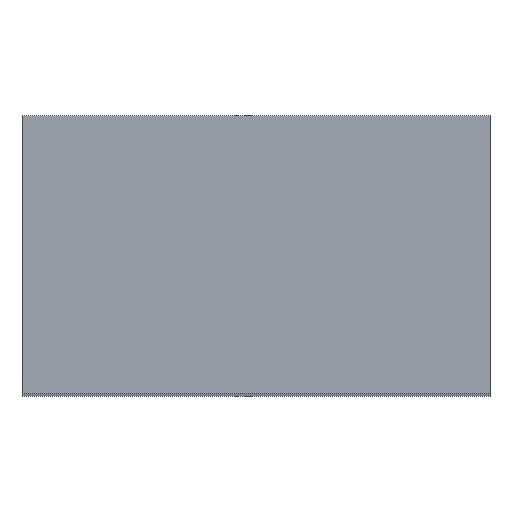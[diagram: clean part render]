
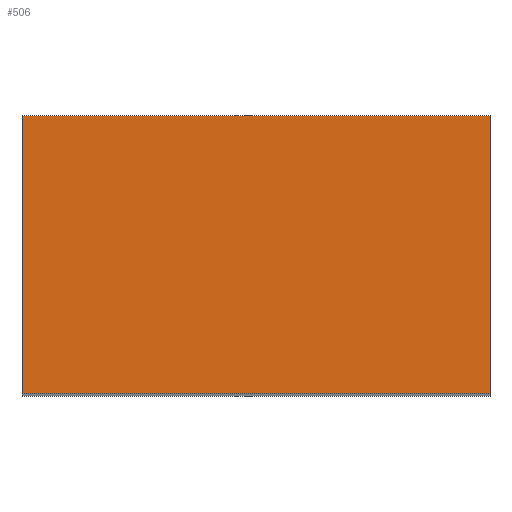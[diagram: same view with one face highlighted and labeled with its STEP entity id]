
A CAD part, top view. The second image highlights one B-rep face of the part: STEP entity #506.
In plain terms, the highlighted planar face has unit normal (0, 0, 1).
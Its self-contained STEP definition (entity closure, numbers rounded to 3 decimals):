
#126 = PLANE('',#127);
#127 = AXIS2_PLACEMENT_3D('',#128,#129,#130);
#128 = CARTESIAN_POINT('',(12.4,2.02,-0.06));
#129 = DIRECTION('',(1.,0.,0.));
#130 = DIRECTION('',(0.,0.,1.));
#181 = PLANE('',#182);
#182 = AXIS2_PLACEMENT_3D('',#183,#184,#185);
#183 = CARTESIAN_POINT('',(12.4,2.02,-0.06));
#184 = DIRECTION('',(0.,1.,0.));
#185 = DIRECTION('',(0.,0.,1.));
#223 = VERTEX_POINT('',#224);
#224 = CARTESIAN_POINT('',(12.4,2.02,0.));
#275 = VERTEX_POINT('',#276);
#276 = CARTESIAN_POINT('',(12.4,3.06,0.));
#290 = PLANE('',#291);
#291 = AXIS2_PLACEMENT_3D('',#292,#293,#294);
#292 = CARTESIAN_POINT('',(12.4,3.06,-0.06));
#293 = DIRECTION('',(0.,1.,0.));
#294 = DIRECTION('',(0.,0.,1.));
#302 = EDGE_CURVE('',#223,#275,#303,.T.);
#303 = SURFACE_CURVE('',#304,(#308,#315),.PCURVE_S1.);
#304 = LINE('',#305,#306);
#305 = CARTESIAN_POINT('',(12.4,2.02,0.));
#306 = VECTOR('',#307,1.);
#307 = DIRECTION('',(0.,1.,0.));
#308 = PCURVE('',#126,#309);
#309 = DEFINITIONAL_REPRESENTATION('',(#310),#314);
#310 = LINE('',#311,#312);
#311 = CARTESIAN_POINT('',(0.06,0.));
#312 = VECTOR('',#313,1.);
#313 = DIRECTION('',(0.,-1.));
#314 = ( GEOMETRIC_REPRESENTATION_CONTEXT(2) 
PARAMETRIC_REPRESENTATION_CONTEXT() REPRESENTATION_CONTEXT('2D SPACE',''
  ) );
#315 = PCURVE('',#316,#321);
#316 = PLANE('',#317);
#317 = AXIS2_PLACEMENT_3D('',#318,#319,#320);
#318 = CARTESIAN_POINT('',(12.4,2.02,0.));
#319 = DIRECTION('',(0.,0.,1.));
#320 = DIRECTION('',(1.,0.,0.));
#321 = DEFINITIONAL_REPRESENTATION('',(#322),#326);
#322 = LINE('',#323,#324);
#323 = CARTESIAN_POINT('',(0.,0.));
#324 = VECTOR('',#325,1.);
#325 = DIRECTION('',(0.,1.));
#326 = ( GEOMETRIC_REPRESENTATION_CONTEXT(2) 
PARAMETRIC_REPRESENTATION_CONTEXT() REPRESENTATION_CONTEXT('2D SPACE',''
  ) );
#446 = PLANE('',#447);
#447 = AXIS2_PLACEMENT_3D('',#448,#449,#450);
#448 = CARTESIAN_POINT('',(14.15,2.02,-0.06));
#449 = DIRECTION('',(1.,0.,0.));
#450 = DIRECTION('',(0.,0.,1.));
#463 = EDGE_CURVE('',#223,#464,#466,.T.);
#464 = VERTEX_POINT('',#465);
#465 = CARTESIAN_POINT('',(14.15,2.02,0.));
#466 = SURFACE_CURVE('',#467,(#471,#478),.PCURVE_S1.);
#467 = LINE('',#468,#469);
#468 = CARTESIAN_POINT('',(12.4,2.02,0.));
#469 = VECTOR('',#470,1.);
#470 = DIRECTION('',(1.,0.,0.));
#471 = PCURVE('',#181,#472);
#472 = DEFINITIONAL_REPRESENTATION('',(#473),#477);
#473 = LINE('',#474,#475);
#474 = CARTESIAN_POINT('',(0.06,0.));
#475 = VECTOR('',#476,1.);
#476 = DIRECTION('',(0.,1.));
#477 = ( GEOMETRIC_REPRESENTATION_CONTEXT(2) 
PARAMETRIC_REPRESENTATION_CONTEXT() REPRESENTATION_CONTEXT('2D SPACE',''
  ) );
#478 = PCURVE('',#316,#479);
#479 = DEFINITIONAL_REPRESENTATION('',(#480),#484);
#480 = LINE('',#481,#482);
#481 = CARTESIAN_POINT('',(0.,0.));
#482 = VECTOR('',#483,1.);
#483 = DIRECTION('',(1.,0.));
#484 = ( GEOMETRIC_REPRESENTATION_CONTEXT(2) 
PARAMETRIC_REPRESENTATION_CONTEXT() REPRESENTATION_CONTEXT('2D SPACE',''
  ) );
#506 = ADVANCED_FACE('',(#507),#316,.T.);
#507 = FACE_BOUND('',#508,.T.);
#508 = EDGE_LOOP('',(#509,#510,#511,#534));
#509 = ORIENTED_EDGE('',*,*,#302,.F.);
#510 = ORIENTED_EDGE('',*,*,#463,.T.);
#511 = ORIENTED_EDGE('',*,*,#512,.T.);
#512 = EDGE_CURVE('',#464,#513,#515,.T.);
#513 = VERTEX_POINT('',#514);
#514 = CARTESIAN_POINT('',(14.15,3.06,0.));
#515 = SURFACE_CURVE('',#516,(#520,#527),.PCURVE_S1.);
#516 = LINE('',#517,#518);
#517 = CARTESIAN_POINT('',(14.15,2.02,0.));
#518 = VECTOR('',#519,1.);
#519 = DIRECTION('',(0.,1.,0.));
#520 = PCURVE('',#316,#521);
#521 = DEFINITIONAL_REPRESENTATION('',(#522),#526);
#522 = LINE('',#523,#524);
#523 = CARTESIAN_POINT('',(1.75,0.));
#524 = VECTOR('',#525,1.);
#525 = DIRECTION('',(0.,1.));
#526 = ( GEOMETRIC_REPRESENTATION_CONTEXT(2) 
PARAMETRIC_REPRESENTATION_CONTEXT() REPRESENTATION_CONTEXT('2D SPACE',''
  ) );
#527 = PCURVE('',#446,#528);
#528 = DEFINITIONAL_REPRESENTATION('',(#529),#533);
#529 = LINE('',#530,#531);
#530 = CARTESIAN_POINT('',(0.06,0.));
#531 = VECTOR('',#532,1.);
#532 = DIRECTION('',(0.,-1.));
#533 = ( GEOMETRIC_REPRESENTATION_CONTEXT(2) 
PARAMETRIC_REPRESENTATION_CONTEXT() REPRESENTATION_CONTEXT('2D SPACE',''
  ) );
#534 = ORIENTED_EDGE('',*,*,#535,.F.);
#535 = EDGE_CURVE('',#275,#513,#536,.T.);
#536 = SURFACE_CURVE('',#537,(#541,#548),.PCURVE_S1.);
#537 = LINE('',#538,#539);
#538 = CARTESIAN_POINT('',(12.4,3.06,0.));
#539 = VECTOR('',#540,1.);
#540 = DIRECTION('',(1.,0.,0.));
#541 = PCURVE('',#316,#542);
#542 = DEFINITIONAL_REPRESENTATION('',(#543),#547);
#543 = LINE('',#544,#545);
#544 = CARTESIAN_POINT('',(0.,1.04));
#545 = VECTOR('',#546,1.);
#546 = DIRECTION('',(1.,0.));
#547 = ( GEOMETRIC_REPRESENTATION_CONTEXT(2) 
PARAMETRIC_REPRESENTATION_CONTEXT() REPRESENTATION_CONTEXT('2D SPACE',''
  ) );
#548 = PCURVE('',#290,#549);
#549 = DEFINITIONAL_REPRESENTATION('',(#550),#554);
#550 = LINE('',#551,#552);
#551 = CARTESIAN_POINT('',(0.06,0.));
#552 = VECTOR('',#553,1.);
#553 = DIRECTION('',(0.,1.));
#554 = ( GEOMETRIC_REPRESENTATION_CONTEXT(2) 
PARAMETRIC_REPRESENTATION_CONTEXT() REPRESENTATION_CONTEXT('2D SPACE',''
  ) );
